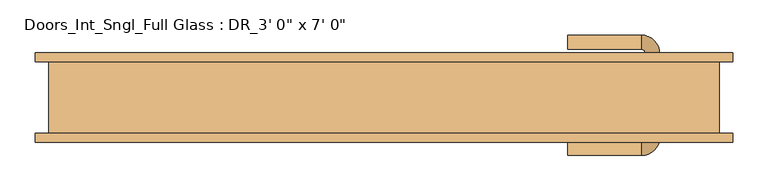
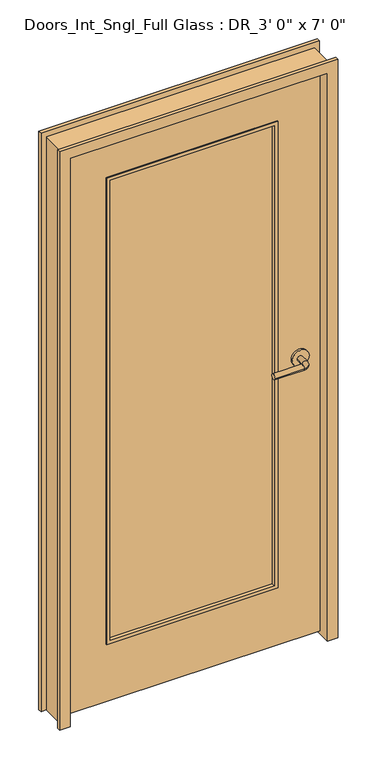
"""IFC4 building model written with IfcOpenShell, lengths in millimetres: door geometry."""

from ifc_helpers import new_model, si_unit, point, frame, frame_2d, origin, place, context, project, spatial, polyline, circle_curve, ellipse_curve, trimmed, segment, composite_curve, outline, extrude, faceted_brep, source, transform, mapped, element, save
from ifc_brep_helpers import plane_surface, cylinder_surface, revolved_surface, advanced_brep


def door_ca0bbe1b(model_context):
    return source(origin(), model_context, "Body", "SolidModel", [
        advanced_brep(
        [(391.0, 33.4, 1066.8), (371.0, 33.4, 1066.8), (371.0, 63.4, 1066.8), (391.0, 63.4, 1066.8), (366.0, 68.4, 1066.8), (366.0, 88.4, 1066.8), (261.0, 88.4, 1066.8), (261.0, 68.4, 1066.8)],
        [
            (0, 1, circle_curve(frame((381.0, 33.4, 1066.8), z_axis=(0.0, -1.0, 0.0), x_axis=(-0.9999999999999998, 0.0, 0.0)), 10.0)),
            (1, 0, circle_curve(frame((381.0, 33.4, 1066.8), z_axis=(0.0, -1.0, 0.0), x_axis=(-0.9999999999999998, 0.0, 0.0)), 10.0)),
            (1, 2),
            (2, 3, circle_curve(frame((381.0, 63.4, 1066.8), z_axis=(0.0, -1.0, 0.0), x_axis=(-0.9999999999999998, 0.0, 0.0)), 10.0)),
            (3, 0),
            (3, 2, circle_curve(frame((381.0, 63.4, 1066.8), z_axis=(0.0, -1.0, 0.0), x_axis=(-0.9999999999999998, 0.0, 0.0)), 10.0)),
            (4, 5, circle_curve(frame((366.0, 78.4, 1066.8), z_axis=(0.9999999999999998, 0.0, 0.0), x_axis=(0.0, -0.9999999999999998, 0.0)), 10.0)),
            (5, 3, circle_curve(frame((366.0, 63.4, 1066.8), z_axis=(0.0, 0.0, -1.0), x_axis=(0.9999999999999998, 0.0, 0.0)), 25.0)),
            (2, 4, circle_curve(frame((366.0, 63.4, 1066.8), z_axis=(0.0, 0.0, 1.0), x_axis=(0.9999999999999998, 0.0, 0.0)), 5.0)),
            (5, 4, circle_curve(frame((366.0, 78.4, 1066.8), z_axis=(0.9999999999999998, 0.0, 0.0), x_axis=(0.0, -0.9999999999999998, 0.0)), 10.0)),
            (6, 7, circle_curve(frame((261.0, 78.4, 1066.8), z_axis=(-1.0, 0.0, 0.0), x_axis=(0.0, -0.9999999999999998, 0.0)), 10.0)),
            (7, 6, circle_curve(frame((261.0, 78.4, 1066.8), z_axis=(-1.0, 0.0, 0.0), x_axis=(0.0, -0.9999999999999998, 0.0)), 10.0)),
            (4, 7),
            (6, 5),
        ],
        [
            plane_surface(frame((381.0, 33.4, 1066.8), z_axis=(0.0, -1.0, 0.0), x_axis=(0.0, 0.0, 1.0))),
            cylinder_surface(frame((381.0, 33.4, 1066.8), z_axis=(0.0, -0.9999999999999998, 0.0), x_axis=(-0.9999999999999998, 0.0, 0.0)), 10.0),
            revolved_surface(trimmed(ellipse_curve(frame((381.0, 63.4, 1066.8), z_axis=(0.0, 0.9999999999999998, 0.0), x_axis=(-0.9999999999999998, 0.0, 0.0)), 10.0, 10.0), [point((391.0, 63.4, 1066.8))], [point((371.0, 63.4, 1066.8))], True, "CARTESIAN"), (366.0, 63.4, 1066.8), (0.0, 0.0, -1.0)),
            revolved_surface(trimmed(ellipse_curve(frame((381.0, 63.4, 1066.8), z_axis=(0.0, 0.9999999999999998, 0.0), x_axis=(-0.9999999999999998, 0.0, 0.0)), 10.0, 10.0), [point((371.0, 63.4, 1066.8))], [point((391.0, 63.4, 1066.8))], True, "CARTESIAN"), (366.0, 63.4, 1066.8), (0.0, 0.0, -1.0)),
            plane_surface(frame((261.0, 78.4, 1066.8), z_axis=(-1.0, 0.0, 0.0), x_axis=(0.0, 0.0, 1.0))),
            cylinder_surface(frame((366.0, 78.4, 1066.8), z_axis=(0.9999999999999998, 0.0, 0.0), x_axis=(0.0, -0.9999999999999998, 0.0)), 10.0),
        ],
        [
            (0, [[1, 2]]),
            (1, [[3, 4, 5, -2]]),
            (1, [[-5, 6, -3, -1]]),
            (2, [[7, 8, -4, 9]]),
            (3, [[10, -9, -6, -8]]),
            (4, [[11, 12]]),
            (5, [[13, -11, 14, -7]]),
            (5, [[-14, -12, -13, -10]]),
        ],
    ),
        extrude(outline(composite_curve([segment(trimmed(circle_curve(frame_2d((1066.8, 383.5)), 30.0), [point((1066.8, 413.5))], [point((1066.8, 353.5))], False, "CARTESIAN"), True, "CONTINUOUS"), segment(trimmed(circle_curve(frame_2d((1066.8, 383.5)), 30.0), [point((1066.8, 353.5))], [point((1066.8, 413.5))], False, "CARTESIAN"), True, "CONTINUOUS")], self_intersect=False)), frame((0.0, 25.4, 0.0), z_axis=(0.0, 1.0, 0.0), x_axis=(0.0, 0.0, 1.0)), (0.0, 0.0, 1.0), 8.0),
        advanced_brep(
        [(391.0, -27.05, 1066.8), (371.0, -27.05, 1066.8), (391.0, -57.05, 1066.8), (371.0, -57.05, 1066.8), (366.0, -62.05, 1066.8), (366.0, -82.05, 1066.8), (261.0, -82.05, 1066.8), (261.0, -62.05, 1066.8)],
        [
            (0, 1, circle_curve(frame((381.0, -27.05, 1066.8), z_axis=(0.0, 1.0, 0.0), x_axis=(-0.9999999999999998, 0.0, 0.0)), 10.0)),
            (1, 0, circle_curve(frame((381.0, -27.05, 1066.8), z_axis=(0.0, 1.0, 0.0), x_axis=(-0.9999999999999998, 0.0, 0.0)), 10.0)),
            (0, 2),
            (2, 3, circle_curve(frame((381.0, -57.05, 1066.8), z_axis=(0.0, 1.0, 0.0), x_axis=(-0.9999999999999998, 0.0, 0.0)), 10.0)),
            (3, 1),
            (3, 2, circle_curve(frame((381.0, -57.05, 1066.8), z_axis=(0.0, 1.0, 0.0), x_axis=(-0.9999999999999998, 0.0, 0.0)), 10.0)),
            (4, 3, circle_curve(frame((366.0, -57.05, 1066.8), z_axis=(0.0, 0.0, 1.0), x_axis=(0.9999999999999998, 0.0, 0.0)), 5.0)),
            (2, 5, circle_curve(frame((366.0, -57.05, 1066.8), z_axis=(0.0, 0.0, -1.0), x_axis=(0.9999999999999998, 0.0, 0.0)), 25.0)),
            (5, 4, circle_curve(frame((366.0, -72.05, 1066.8), z_axis=(0.9999999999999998, 0.0, 0.0), x_axis=(0.0, 0.9999999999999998, 0.0)), 10.0)),
            (4, 5, circle_curve(frame((366.0, -72.05, 1066.8), z_axis=(0.9999999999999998, 0.0, 0.0), x_axis=(0.0, 0.9999999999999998, 0.0)), 10.0)),
            (6, 7, circle_curve(frame((261.0, -72.05, 1066.8), z_axis=(-1.0, 0.0, 0.0), x_axis=(0.0, 0.9999999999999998, 0.0)), 10.0)),
            (7, 6, circle_curve(frame((261.0, -72.05, 1066.8), z_axis=(-1.0, 0.0, 0.0), x_axis=(0.0, 0.9999999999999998, 0.0)), 10.0)),
            (5, 6),
            (7, 4),
        ],
        [
            plane_surface(frame((381.0, -27.05, 1066.8), z_axis=(0.0, 1.0, 0.0), x_axis=(0.0, 0.0, 1.0))),
            cylinder_surface(frame((381.0, -27.05, 1066.8), z_axis=(0.0, 0.9999999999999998, 0.0), x_axis=(-0.9999999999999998, 0.0, 0.0)), 10.0),
            revolved_surface(trimmed(ellipse_curve(frame((381.0, -57.05, 1066.8), z_axis=(0.0, 0.9999999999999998, 0.0), x_axis=(-0.9999999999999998, 0.0, 0.0)), 10.0, 10.0), [point((391.0, -57.05, 1066.8))], [point((371.0, -57.05, 1066.8))], True, "CARTESIAN"), (366.0, -57.05, 1066.8), (0.0, 0.0, -1.0)),
            revolved_surface(trimmed(ellipse_curve(frame((381.0, -57.05, 1066.8), z_axis=(0.0, 0.9999999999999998, 0.0), x_axis=(-0.9999999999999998, 0.0, 0.0)), 10.0, 10.0), [point((371.0, -57.05, 1066.8))], [point((391.0, -57.05, 1066.8))], True, "CARTESIAN"), (366.0, -57.05, 1066.8), (0.0, 0.0, -1.0)),
            plane_surface(frame((261.0, -72.05, 1066.8), z_axis=(-1.0, 0.0, 0.0), x_axis=(0.0, 0.0, 1.0))),
            cylinder_surface(frame((366.0, -72.05, 1066.8), z_axis=(0.9999999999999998, 0.0, 0.0), x_axis=(0.0, 0.9999999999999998, 0.0)), 10.0),
        ],
        [
            (0, [[1, 2]]),
            (1, [[-1, 3, 4, 5]]),
            (1, [[-2, -5, 6, -3]]),
            (2, [[7, -4, 8, 9]]),
            (3, [[-8, -6, -7, 10]]),
            (4, [[11, 12]]),
            (5, [[-9, 13, -12, 14]]),
            (5, [[-10, -14, -11, -13]]),
        ],
    ),
        extrude(outline(composite_curve([segment(trimmed(circle_curve(frame_2d((1066.8, 383.5)), 30.0), [point((1066.8, 413.5))], [point((1066.8, 353.5))], False, "CARTESIAN"), True, "CONTINUOUS"), segment(trimmed(circle_curve(frame_2d((1066.8, 383.5)), 30.0), [point((1066.8, 353.5))], [point((1066.8, 413.5))], False, "CARTESIAN"), True, "CONTINUOUS")], self_intersect=False)), frame((0.0, -27.05, 0.0), z_axis=(0.0, 1.0, 0.0), x_axis=(0.0, 0.0, 1.0)), (0.0, 0.0, 1.0), 8.0),
        extrude(outline(polyline([(292.1, -9.525), (-292.1, -9.525), (-292.1, 15.875), (292.1, 15.875), (292.1, -9.525)])), frame((0.0, 0.0, 241.3), z_axis=(0.0, 0.0, 1.0), x_axis=(1.0, 0.0, 0.0)), (0.0, 0.0, 1.0), 1727.2),
        extrude(outline(polyline([(228.6, -304.8), (228.6, 304.8), (1981.2, 304.8), (1981.2, -304.8), (228.6, -304.8)]), holes=[polyline([(241.3, -292.1), (1968.5, -292.1), (1968.5, 292.1), (241.3, 292.1), (241.3, -292.1)])]), frame((0.0, -22.225, 0.0), z_axis=(0.0, 1.0, 0.0), x_axis=(0.0, 0.0, 1.0)), (0.0, 0.0, 1.0), 50.8),
        extrude(outline(polyline([(2133.6, 457.2), (2133.6, -457.2), (12.7, -457.2), (12.7, 457.2), (2133.6, 457.2)]), holes=[polyline([(228.6, -304.8), (1981.2, -304.8), (1981.2, 304.8), (228.6, 304.8), (228.6, -304.8)])]), frame((0.0, -19.05, 0.0), z_axis=(0.0, 1.0, 0.0), x_axis=(0.0, 0.0, 1.0)), (0.0, 0.0, 1.0), 44.45),
        faceted_brep([(-457.2, -63.5, 0.0), (-495.3, -63.5, 0.0), (-495.3, -50.8, 0.0), (-476.25, -50.8, 0.0), (-476.25, 50.8, 0.0), (-495.3, 50.8, 0.0), (-495.3, 63.5, 0.0), (-457.2, 63.5, 0.0), (-457.2, -63.5, 2133.6), (457.2, -63.5, 2133.6), (457.2, -63.5, 0.0), (495.3, -63.5, 0.0), (495.3, -63.5, 2171.7), (-495.3, -63.5, 2171.7), (-495.3, -50.8, 2171.7), (495.3, -50.8, 2171.7), (495.3, -50.8, 0.0), (476.25, -50.8, 0.0), (476.25, -50.8, 2152.65), (-476.25, -50.8, 2152.65), (-476.25, 50.8, 2152.65), (476.25, 50.8, 2152.65), (476.25, 50.8, 0.0), (495.3, 50.8, 0.0), (495.3, 50.8, 2171.7), (-495.3, 50.8, 2171.7), (-495.3, 63.5, 2171.7), (495.3, 63.5, 2171.7), (495.3, 63.5, 0.0), (457.2, 63.5, 0.0), (457.2, 63.5, 2133.6), (-457.2, 63.5, 2133.6)], [[[0, 1, 2, 3, 4, 5, 6, 7]], [[1, 0, 8, 9, 10, 11, 12, 13]], [[2, 1, 13, 14]], [[3, 2, 14, 15, 16, 17, 18, 19]], [[4, 3, 19, 20]], [[5, 4, 20, 21, 22, 23, 24, 25]], [[6, 5, 25, 26]], [[7, 6, 26, 27, 28, 29, 30, 31]], [[0, 7, 31, 8]], [[9, 30, 29, 10]], [[10, 29, 28, 23, 22, 17, 16, 11]], [[15, 12, 11, 16]], [[27, 24, 23, 28]], [[21, 18, 17, 22]], [[20, 19, 18, 21]], [[8, 31, 30, 9]], [[14, 13, 12, 15]], [[26, 25, 24, 27]]]),
    ])


if __name__ == "__main__":
    model = new_model("IFC4")
    model_context = context("Model", 3, world=origin())
    ifc_project = project(units=[si_unit("LENGTHUNIT", "METRE", prefix="MILLI")], contexts=[model_context])
    site = spatial("IfcSite", under=ifc_project)
    building = spatial("IfcBuilding", under=site)
    placement = place(None, origin())
    door_shape = door_ca0bbe1b(model_context)
    element("IfcDoor", 1, ObjectType="Doors_Int_Sngl_Full Glass : DR_3' 0\" x 7' 0\"", at=placement, inside=building, context=model_context, shape_type="MappedRepresentation", body=[
        mapped(door_shape, transform((0.0, 0.0, 0.0), x_axis=(1.0, 0.0, 0.0), y_axis=(0.0, 1.0, 0.0), z_axis=(0.0, 0.0, 1.0))),
    ])
    save(model, "model.ifc")
